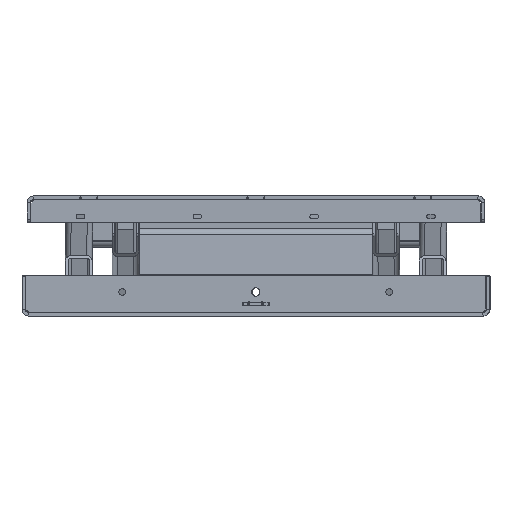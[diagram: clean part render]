
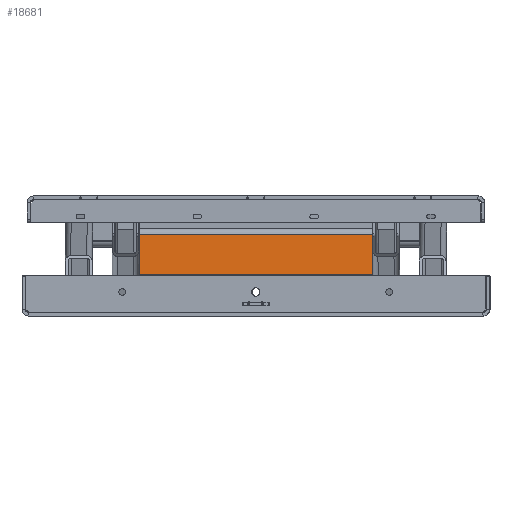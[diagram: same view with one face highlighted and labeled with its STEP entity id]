
A CAD part, left-side view. The second image highlights one B-rep face of the part: STEP entity #18681.
In plain terms, the highlighted planar face has unit normal (-0.999, 0.001, 0.052) as drawn and (-1, 0, 0) by its records, which use the part's own axes.
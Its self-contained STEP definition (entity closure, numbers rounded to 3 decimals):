
#1074=PLANE('',#20814);
#2046=FACE_OUTER_BOUND('',#3292,.T.);
#3292=EDGE_LOOP('',(#17216,#17217,#17218,#17219));
#4943=LINE('',#32207,#6601);
#4951=LINE('',#32232,#6609);
#4952=LINE('',#32234,#6610);
#4953=LINE('',#32235,#6611);
#6601=VECTOR('',#26348,10.);
#6609=VECTOR('',#26376,10.);
#6610=VECTOR('',#26377,10.);
#6611=VECTOR('',#26378,10.);
#9300=VERTEX_POINT('',#32204);
#9301=VERTEX_POINT('',#32206);
#9308=VERTEX_POINT('',#32231);
#9309=VERTEX_POINT('',#32233);
#11940=EDGE_CURVE('',#9301,#9300,#4943,.T.);
#11953=EDGE_CURVE('',#9300,#9308,#4951,.T.);
#11954=EDGE_CURVE('',#9309,#9308,#4952,.T.);
#11955=EDGE_CURVE('',#9301,#9309,#4953,.T.);
#17216=ORIENTED_EDGE('',*,*,#11953,.T.);
#17217=ORIENTED_EDGE('',*,*,#11954,.F.);
#17218=ORIENTED_EDGE('',*,*,#11955,.F.);
#17219=ORIENTED_EDGE('',*,*,#11940,.T.);
#18681=ADVANCED_FACE('',(#2046),#1074,.T.);
#20814=AXIS2_PLACEMENT_3D('',#32230,#26374,#26375);
#26348=DIRECTION('',(0.,0.,1.));
#26374=DIRECTION('center_axis',(-1.,0.,0.));
#26375=DIRECTION('ref_axis',(0.,0.,1.));
#26376=DIRECTION('',(0.,1.,0.));
#26377=DIRECTION('',(0.,0.,1.));
#26378=DIRECTION('',(0.,1.,0.));
#32204=CARTESIAN_POINT('',(-40.,-30.,350.));
#32206=CARTESIAN_POINT('',(-40.,-30.,0.));
#32207=CARTESIAN_POINT('',(-40.,-30.,0.));
#32230=CARTESIAN_POINT('Origin',(-40.,-30.,0.));
#32231=CARTESIAN_POINT('',(-40.,30.,350.));
#32232=CARTESIAN_POINT('',(-40.,-15.,350.));
#32233=CARTESIAN_POINT('',(-40.,30.,0.));
#32234=CARTESIAN_POINT('',(-40.,30.,0.));
#32235=CARTESIAN_POINT('',(-40.,-15.,0.));
